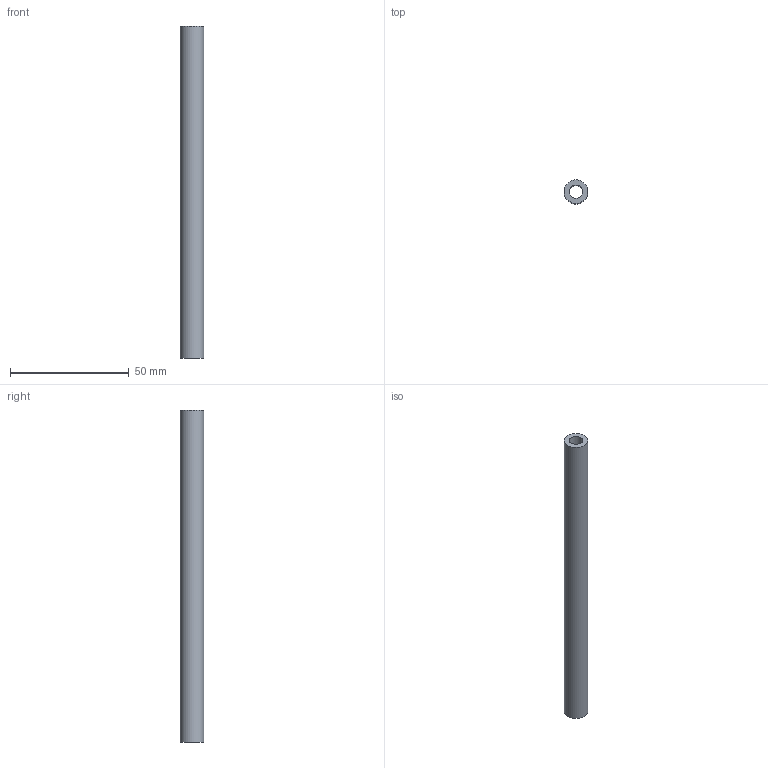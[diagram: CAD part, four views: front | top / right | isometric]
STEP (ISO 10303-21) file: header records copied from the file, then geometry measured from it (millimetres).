
FILE_DESCRIPTION(('Open CASCADE Model'),'2;1');
FILE_NAME('Open CASCADE Shape Model','2026-11-04T08:45:17',('Author'),( 'Open CASCADE'),'Open CASCADE STEP processor 7.8','Open CASCADE 7.8' ,'Unknown');
FILE_SCHEMA(('AUTOMOTIVE_DESIGN { 1 0 10303 214 1 1 1 1 }'));
Length unit declared in the file: millimetre
Products named in the file (1): Open CASCADE STEP translator 7.8 15
Bounding box: 10 x 10 x 140 mm (x, y, z)
Volume: 7547.4 mm3; surface area: 6969.1 mm2
Topology: 1 solids, 1 shells, 4 faces, 6 edges, 4 vertices
Faces by surface type: cylinder 2, plane 2
Full cylindrical faces by diameter (mm): 5.6 x1, 10 x1
Entity records: 186 total; most frequent: DIRECTION 32, CARTESIAN_POINT 27, ORIENTED_EDGE 12, PCURVE 12, DEFINITIONAL_REPRESENTATION 12, LINE 10, VECTOR 10, AXIS2_PLACEMENT_3D 9
